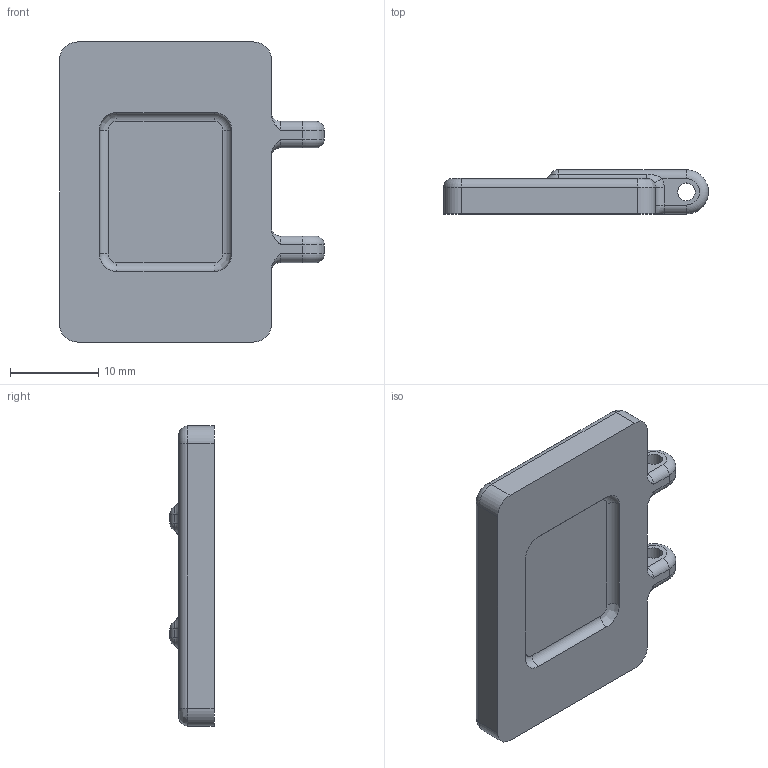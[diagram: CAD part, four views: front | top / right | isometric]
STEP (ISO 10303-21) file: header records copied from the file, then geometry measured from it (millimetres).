
FILE_DESCRIPTION((''),'2;1');
FILE_NAME('VENTILKLAPPE','2022-06-13T16:07:16',('H041970'),(''),'CREO PARAMETRIC BY PTC INC, 2021284','CREO PARAMETRIC BY PTC INC, 2021284','');
FILE_SCHEMA(('CONFIG_CONTROL_DESIGN'));
Length unit declared in the file: millimetre
Products named in the file (1): VENTILKLAPPE
Bounding box: 30 x 5 x 34 mm (x, y, z)
Volume: 3175.3 mm3; surface area: 2252.8 mm2
Topology: 1 solids, 1 shells, 87 faces, 213 edges, 134 vertices
Faces by surface type: cylinder 40, torus 20, plane 15, bspline 8, sphere 4
Entity records: 3004 total; most frequent: CARTESIAN_POINT 879, DIRECTION 477, ORIENTED_EDGE 416, EDGE_CURVE 208, AXIS2_PLACEMENT_3D 196, VERTEX_POINT 124, CIRCLE 116, EDGE_LOOP 92
